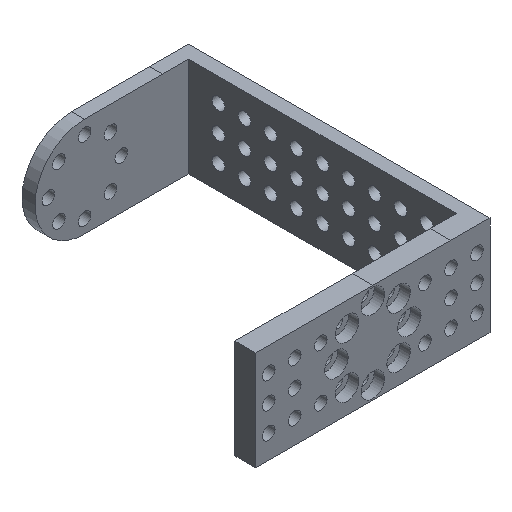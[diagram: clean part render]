
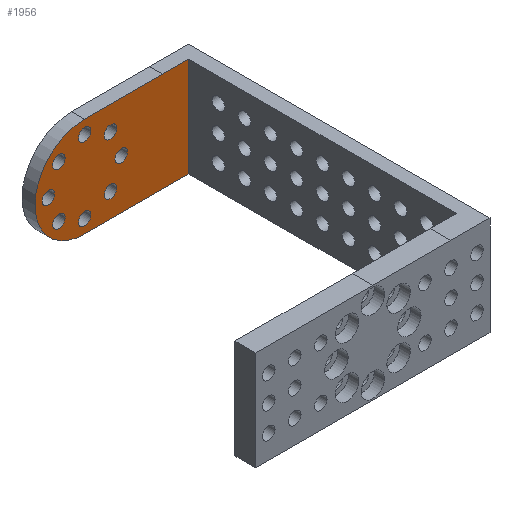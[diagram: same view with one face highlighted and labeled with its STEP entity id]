
A CAD part, isometric view. The second image highlights one B-rep face of the part: STEP entity #1956.
In plain terms, the highlighted planar face has unit normal (0, -1, 0).
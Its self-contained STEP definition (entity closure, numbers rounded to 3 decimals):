
#109=FACE_BOUND('',#447,.T.);
#110=FACE_BOUND('',#448,.T.);
#111=FACE_BOUND('',#449,.T.);
#112=FACE_BOUND('',#450,.T.);
#113=FACE_BOUND('',#451,.T.);
#114=FACE_BOUND('',#452,.T.);
#115=FACE_BOUND('',#453,.T.);
#116=FACE_BOUND('',#454,.T.);
#162=PLANE('',#2208);
#257=FACE_OUTER_BOUND('',#446,.T.);
#446=EDGE_LOOP('',(#1745,#1746,#1747,#1748,#1749,#1750));
#447=EDGE_LOOP('',(#1751));
#448=EDGE_LOOP('',(#1752));
#449=EDGE_LOOP('',(#1753));
#450=EDGE_LOOP('',(#1754));
#451=EDGE_LOOP('',(#1755));
#452=EDGE_LOOP('',(#1756));
#453=EDGE_LOOP('',(#1757));
#454=EDGE_LOOP('',(#1758));
#573=LINE('',#3286,#688);
#574=LINE('',#3289,#689);
#582=LINE('',#3306,#697);
#587=LINE('',#3316,#702);
#591=LINE('',#3324,#706);
#688=VECTOR('',#2760,10.);
#689=VECTOR('',#2763,10.);
#697=VECTOR('',#2777,10.);
#702=VECTOR('',#2788,10.);
#706=VECTOR('',#2798,10.);
#832=CIRCLE('',#2173,1.2);
#834=CIRCLE('',#2176,1.2);
#836=CIRCLE('',#2179,1.2);
#838=CIRCLE('',#2182,1.2);
#840=CIRCLE('',#2185,1.2);
#842=CIRCLE('',#2188,1.2);
#844=CIRCLE('',#2191,1.2);
#846=CIRCLE('',#2194,1.2);
#849=CIRCLE('',#2206,9.55);
#988=VERTEX_POINT('',#3222);
#990=VERTEX_POINT('',#3228);
#992=VERTEX_POINT('',#3234);
#994=VERTEX_POINT('',#3240);
#996=VERTEX_POINT('',#3246);
#998=VERTEX_POINT('',#3252);
#1000=VERTEX_POINT('',#3258);
#1002=VERTEX_POINT('',#3264);
#1007=VERTEX_POINT('',#3277);
#1009=VERTEX_POINT('',#3284);
#1010=VERTEX_POINT('',#3288);
#1016=VERTEX_POINT('',#3305);
#1018=VERTEX_POINT('',#3315);
#1019=VERTEX_POINT('',#3320);
#1224=EDGE_CURVE('',#988,#988,#832,.T.);
#1227=EDGE_CURVE('',#990,#990,#834,.T.);
#1230=EDGE_CURVE('',#992,#992,#836,.T.);
#1233=EDGE_CURVE('',#994,#994,#838,.T.);
#1236=EDGE_CURVE('',#996,#996,#840,.T.);
#1239=EDGE_CURVE('',#998,#998,#842,.T.);
#1242=EDGE_CURVE('',#1000,#1000,#844,.T.);
#1245=EDGE_CURVE('',#1002,#1002,#846,.T.);
#1257=EDGE_CURVE('',#1007,#1009,#573,.T.);
#1258=EDGE_CURVE('',#1010,#1009,#574,.T.);
#1267=EDGE_CURVE('',#1016,#1010,#582,.T.);
#1272=EDGE_CURVE('',#1018,#1007,#587,.T.);
#1275=EDGE_CURVE('',#1019,#1018,#849,.T.);
#1277=EDGE_CURVE('',#1016,#1019,#591,.T.);
#1745=ORIENTED_EDGE('',*,*,#1272,.T.);
#1746=ORIENTED_EDGE('',*,*,#1257,.T.);
#1747=ORIENTED_EDGE('',*,*,#1258,.F.);
#1748=ORIENTED_EDGE('',*,*,#1267,.F.);
#1749=ORIENTED_EDGE('',*,*,#1277,.T.);
#1750=ORIENTED_EDGE('',*,*,#1275,.T.);
#1751=ORIENTED_EDGE('',*,*,#1224,.T.);
#1752=ORIENTED_EDGE('',*,*,#1227,.T.);
#1753=ORIENTED_EDGE('',*,*,#1230,.T.);
#1754=ORIENTED_EDGE('',*,*,#1233,.T.);
#1755=ORIENTED_EDGE('',*,*,#1236,.T.);
#1756=ORIENTED_EDGE('',*,*,#1239,.T.);
#1757=ORIENTED_EDGE('',*,*,#1242,.T.);
#1758=ORIENTED_EDGE('',*,*,#1245,.T.);
#1956=ADVANCED_FACE('',(#257,#109,#110,#111,#112,#113,#114,#115,#116),#162,
 .F.);
#2173=AXIS2_PLACEMENT_3D('',#3223,#2693,#2694);
#2176=AXIS2_PLACEMENT_3D('',#3229,#2700,#2701);
#2179=AXIS2_PLACEMENT_3D('',#3235,#2707,#2708);
#2182=AXIS2_PLACEMENT_3D('',#3241,#2714,#2715);
#2185=AXIS2_PLACEMENT_3D('',#3247,#2721,#2722);
#2188=AXIS2_PLACEMENT_3D('',#3253,#2728,#2729);
#2191=AXIS2_PLACEMENT_3D('',#3259,#2735,#2736);
#2194=AXIS2_PLACEMENT_3D('',#3265,#2742,#2743);
#2206=AXIS2_PLACEMENT_3D('',#3321,#2793,#2794);
#2208=AXIS2_PLACEMENT_3D('',#3325,#2799,#2800);
#2693=DIRECTION('center_axis',(0.,1.,0.));
#2694=DIRECTION('ref_axis',(0.707,0.,0.707));
#2700=DIRECTION('center_axis',(0.,1.,0.));
#2701=DIRECTION('ref_axis',(1.,0.,0.));
#2707=DIRECTION('center_axis',(0.,1.,0.));
#2708=DIRECTION('ref_axis',(0.707,0.,-0.707));
#2714=DIRECTION('center_axis',(0.,1.,0.));
#2715=DIRECTION('ref_axis',(0.,0.,-1.));
#2721=DIRECTION('center_axis',(0.,1.,0.));
#2722=DIRECTION('ref_axis',(-0.707,0.,0.707));
#2728=DIRECTION('center_axis',(0.,1.,0.));
#2729=DIRECTION('ref_axis',(-0.707,0.,-0.707));
#2735=DIRECTION('center_axis',(0.,1.,0.));
#2736=DIRECTION('ref_axis',(-1.,0.,0.));
#2742=DIRECTION('center_axis',(0.,1.,0.));
#2743=DIRECTION('ref_axis',(0.,0.,1.));
#2760=DIRECTION('',(0.,0.,1.));
#2763=DIRECTION('',(1.,0.,0.));
#2777=DIRECTION('',(0.,0.,-1.));
#2788=DIRECTION('',(1.,0.,0.));
#2793=DIRECTION('center_axis',(0.,-1.,0.));
#2794=DIRECTION('ref_axis',(1.,0.,0.));
#2798=DIRECTION('',(-1.,0.,0.));
#2799=DIRECTION('center_axis',(0.,1.,0.));
#2800=DIRECTION('ref_axis',(1.,0.,0.));
#3222=CARTESIAN_POINT('',(24.202,46.3,14.101));
#3223=CARTESIAN_POINT('Origin',(25.05,46.3,14.95));
#3228=CARTESIAN_POINT('',(28.8,46.3,17.));
#3229=CARTESIAN_POINT('Origin',(30.,46.3,17.));
#3234=CARTESIAN_POINT('',(34.101,46.3,15.798));
#3235=CARTESIAN_POINT('Origin',(34.95,46.3,14.95));
#3240=CARTESIAN_POINT('',(37.,46.3,11.2));
#3241=CARTESIAN_POINT('Origin',(37.,46.3,10.));
#3246=CARTESIAN_POINT('',(25.899,46.3,4.202));
#3247=CARTESIAN_POINT('Origin',(25.05,46.3,5.05));
#3252=CARTESIAN_POINT('',(35.798,46.3,5.899));
#3253=CARTESIAN_POINT('Origin',(34.95,46.3,5.05));
#3258=CARTESIAN_POINT('',(31.2,46.3,3.));
#3259=CARTESIAN_POINT('Origin',(30.,46.3,3.));
#3264=CARTESIAN_POINT('',(23.,46.3,8.8));
#3265=CARTESIAN_POINT('Origin',(23.,46.3,10.));
#3277=CARTESIAN_POINT('',(50.,46.3,0.45));
#3284=CARTESIAN_POINT('',(50.,46.3,19.544));
#3286=CARTESIAN_POINT('',(50.,46.3,10.));
#3288=CARTESIAN_POINT('',(45.,46.3,19.544));
#3289=CARTESIAN_POINT('',(45.375,46.3,19.544));
#3305=CARTESIAN_POINT('',(45.,46.3,19.544));
#3306=CARTESIAN_POINT('',(45.,46.3,10.));
#3315=CARTESIAN_POINT('',(30.,46.3,0.45));
#3316=CARTESIAN_POINT('',(31.35,46.3,0.45));
#3320=CARTESIAN_POINT('',(30.004,46.3,19.55));
#3321=CARTESIAN_POINT('Origin',(30.,46.3,10.));
#3324=CARTESIAN_POINT('',(38.852,46.3,19.547));
#3325=CARTESIAN_POINT('Origin',(32.7,46.3,10.));
